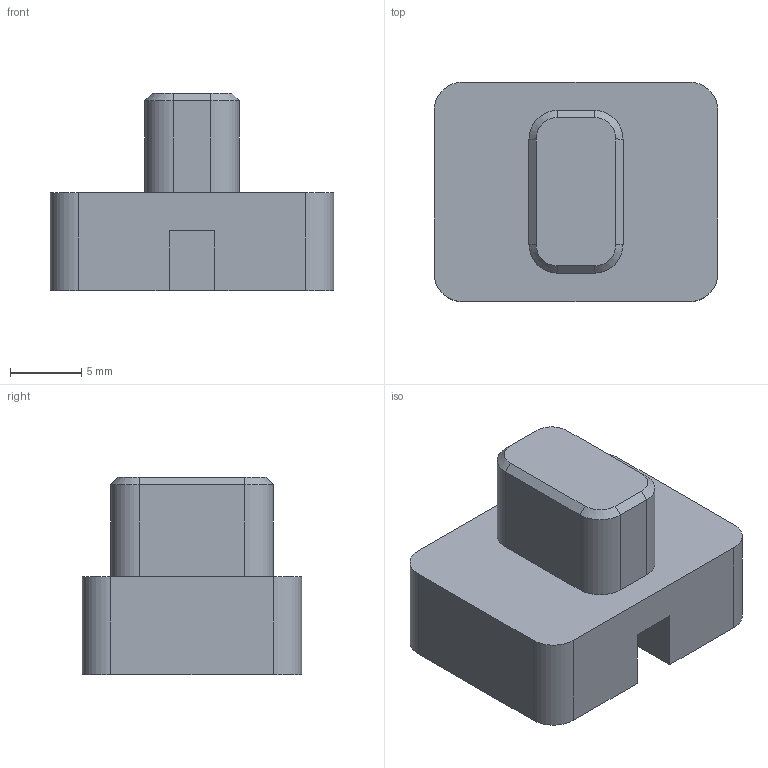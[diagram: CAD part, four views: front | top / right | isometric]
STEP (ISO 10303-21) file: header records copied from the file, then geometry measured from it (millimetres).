
FILE_DESCRIPTION(/* description */ ('STEP AP242','CAx-IF Rec.Pracs.---Representation and Presentation of Product Manufacturing Information (PMI)---4.0---2014-10-13','CAx-IF Rec.Pracs.---3D Tessellated Geometry---0.4---2014-09-14','2;1'),/* implementation_level */ '2;1');
FILE_NAME(/* name */ '687e6bc7f344454910d480b7',/* time_stamp */ '2025-07-21T16:33:11Z',/* author */ (''),/* organization */ (''),/* preprocessor_version */ 'ST-DEVELOPER v20',/* originating_system */ 'ONSHAPE BY PTC INC, 1.201',/* authorisation */ ' ');
FILE_SCHEMA (('AP242_MANAGED_MODEL_BASED_3D_ENGINEERING_MIM_LF { 1 0 10303 442 1 1 4 }'));
Length unit declared in the file: metre
Products named in the file (1): Power Switch Button
Bounding box: 19.9 x 15.4 x 13.82 mm (x, y, z)
Volume: 2448.5 mm3; surface area: 1363.7 mm2
Topology: 1 solids, 1 shells, 31 faces, 76 edges, 48 vertices
Faces by surface type: plane 19, cylinder 8, cone 4
Entity records: 928 total; most frequent: DIRECTION 160, CARTESIAN_POINT 156, ORIENTED_EDGE 152, EDGE_CURVE 76, LINE 56, VECTOR 56, AXIS2_PLACEMENT_3D 52, VERTEX_POINT 48
